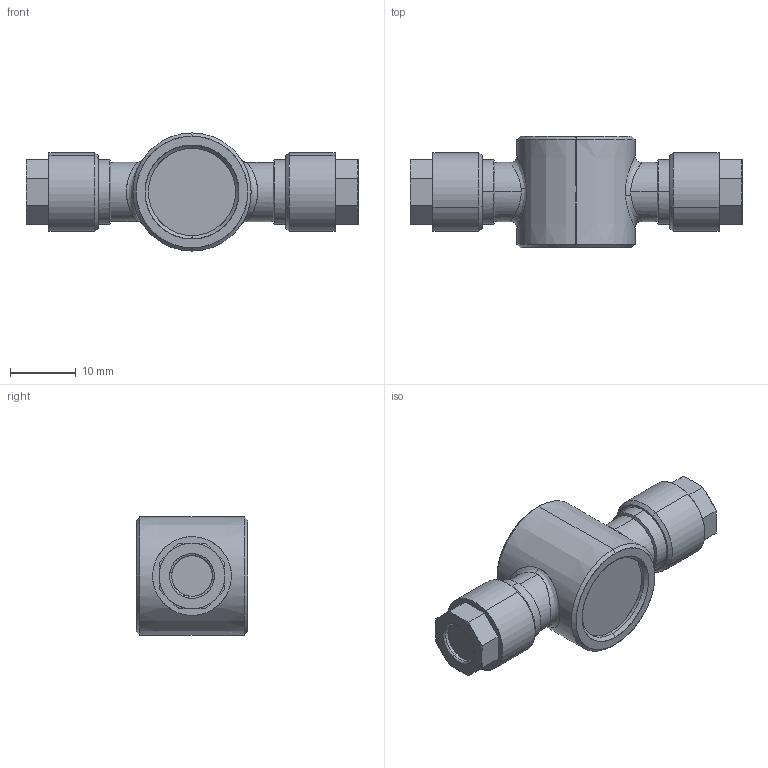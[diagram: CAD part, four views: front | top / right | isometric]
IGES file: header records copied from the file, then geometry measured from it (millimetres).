
Start section: SolidWorks IGES file using analytic representation for surfaces
Global section: file name: K:\Disegni Esecutivi\Serie 1000\Complessivi Serie 1000\1510\1510_iges\0151000007A.IGS; native system: SolidWorks 2008; preprocessor: SolidWorks 2008; author: cad05; date: 090216.093243; units: millimetre
Bounding box: 50.6 x 17 x 18 mm (x, y, z)
Surface area: 2869.5 mm2 (no closed solid volume)
Topology: 0 solids, 0 shells, 96 faces, 1146 edges, 1146 vertices
Faces by surface type: revolution 60, bspline 36
